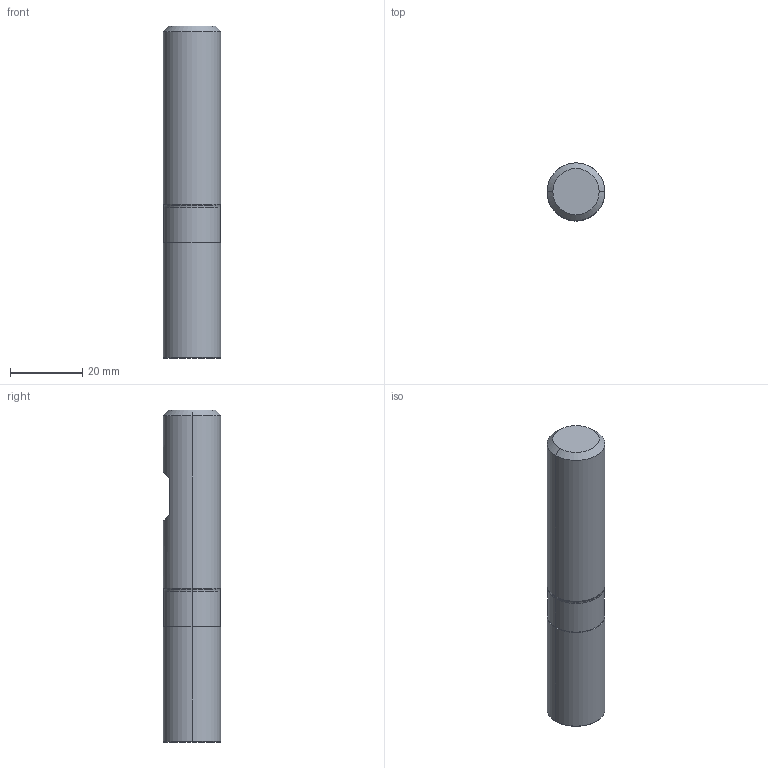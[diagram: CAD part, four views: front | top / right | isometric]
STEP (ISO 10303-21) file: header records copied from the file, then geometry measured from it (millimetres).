
FILE_DESCRIPTION (( 'STEP AP214' ), '1' );
FILE_NAME ('2.403.160.10_3D-model.step', '2022-02-15T18:34:28', ( '' ), ( '' ), 'SwSTEP 2.0', 'SolidWorks 2020', '' );
FILE_SCHEMA (( 'AUTOMOTIVE_DESIGN' ));
Length unit declared in the file: millimetre
Products named in the file (3): NOCUT-3D^Baugr56; 2.403.160.10_3D-model; CUT-3D^Baugr56
Assembly tree (2 placements, depth 2):
  2.403.160.10_3D-model
    CUT-3D^Baugr56
    NOCUT-3D^Baugr56
Bounding box: 16 x 16 x 92 mm (x, y, z)
Volume: 18217.6 mm3; surface area: 5356.8 mm2
Topology: 2 solids, 2 shells, 21 faces, 38 edges, 22 vertices
Faces by surface type: plane 7, cylinder 6, cone 6, torus 2
Entity records: 634 total; most frequent: DIRECTION 114, CARTESIAN_POINT 95, ORIENTED_EDGE 76, AXIS2_PLACEMENT_3D 49, EDGE_CURVE 38, EDGE_LOOP 22, VERTEX_POINT 22, ADVANCED_FACE 21
